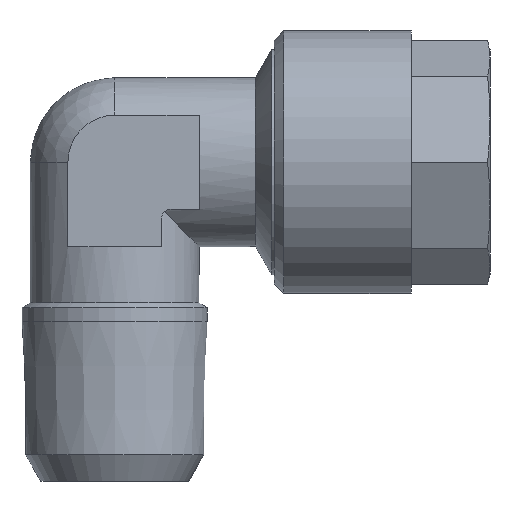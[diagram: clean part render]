
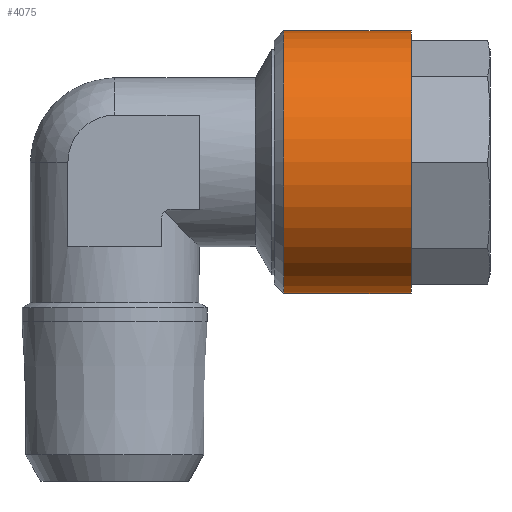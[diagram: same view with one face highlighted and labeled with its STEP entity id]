
A CAD part, front view. The second image highlights one B-rep face of the part: STEP entity #4075.
In plain terms, the highlighted cylindrical face has radius 7 mm (diameter 14 mm), a full revolution.
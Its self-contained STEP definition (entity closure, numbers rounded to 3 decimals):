
#1513=CYLINDRICAL_SURFACE('',#3941,7.);
#1618=ORIENTED_EDGE('',*,*,#1980,.F.);
#1619=ORIENTED_EDGE('',*,*,#1981,.T.);
#1803=CIRCLE('',#3940,7.);
#1804=CIRCLE('',#3942,7.);
#1870=VERTEX_POINT('',#2697);
#1871=VERTEX_POINT('',#2700);
#1980=EDGE_CURVE('',#1870,#1870,#1803,.T.);
#1981=EDGE_CURVE('',#1871,#1871,#1804,.T.);
#2094=EDGE_LOOP('',(#1618));
#2095=EDGE_LOOP('',(#1619));
#2194=FACE_BOUND('',#2094,.T.);
#2195=FACE_BOUND('',#2095,.T.);
#2385=DIRECTION('',(0.,1.,0.));
#2386=DIRECTION('',(0.,0.,7.));
#2387=DIRECTION('',(0.,1.,0.));
#2388=DIRECTION('',(1.,0.,0.));
#2389=DIRECTION('',(0.,1.,0.));
#2390=DIRECTION('',(0.,0.,-7.));
#2697=CARTESIAN_POINT('',(26.989,21.895,7.));
#2698=CARTESIAN_POINT('',(26.989,21.895,0.));
#2699=CARTESIAN_POINT('',(26.989,15.095,0.));
#2700=CARTESIAN_POINT('',(26.989,15.095,-7.));
#2701=CARTESIAN_POINT('',(26.989,15.095,0.));
#3940=AXIS2_PLACEMENT_3D('',#2698,#2385,#2386);
#3941=AXIS2_PLACEMENT_3D('',#2699,#2387,#2388);
#3942=AXIS2_PLACEMENT_3D('',#2701,#2389,#2390);
#4075=ADVANCED_FACE('',(#2194,#2195),#1513,.T.);
